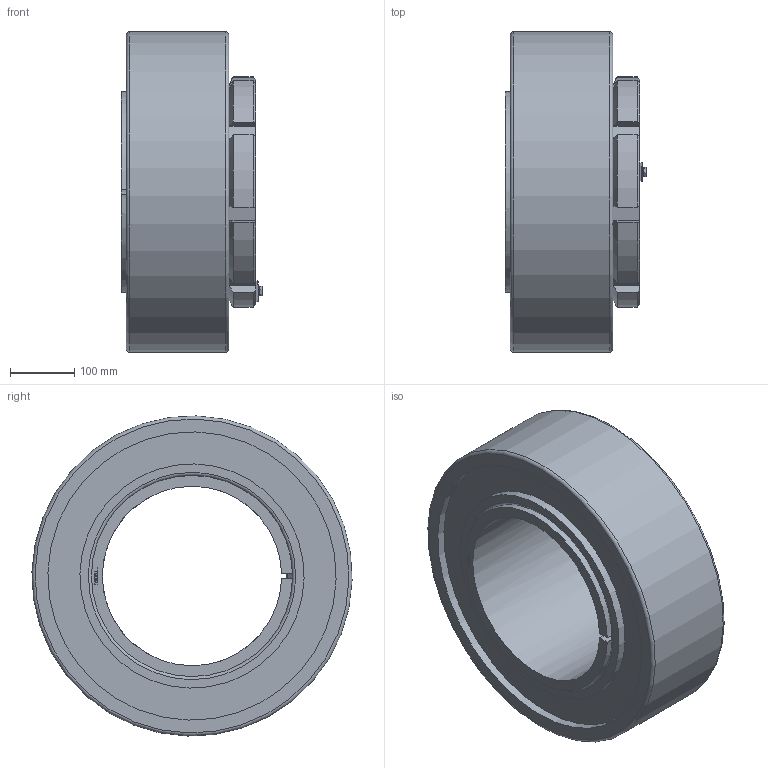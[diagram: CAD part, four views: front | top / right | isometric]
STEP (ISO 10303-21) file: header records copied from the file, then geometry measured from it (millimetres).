
FILE_DESCRIPTION( ( 'STEP AP203' ), ' ' );
FILE_NAME( 'p:/temp/worker_323/4316_4604/app_90_02016102820120284005985192d056f_000000_00_00_000000/format_0/BGL H 3160 TL+23160K.stp', '2016-10-28T18:12:05', ( '' ), ( '' ), ' ', 'PARTsolutions', ' ' );
FILE_SCHEMA( ( 'CONFIG_CONTROL_DESIGN' ) );
Length unit declared in the file: millimetre
Products named in the file (6): BGL H 3160 TL+23160K; _BGLH3160TLB; _BGL HM 3060; _BGLH3160TL+H-23160K; _BGL MS 3060part; _BGL MS 3060HHS
Assembly tree (5 placements, depth 2):
  BGL H 3160 TL+23160K
    _BGLH3160TLB
    _BGL HM 3060
    _BGLH3160TL+H-23160K
    _BGL MS 3060part
    _BGL MS 3060HHS
Bounding box: 221.05 x 499.83 x 499.83 mm (x, y, z)
Volume: 21509348.3 mm3; surface area: 1270692.5 mm2
Topology: 5 solids, 5 shells, 351 faces, 899 edges, 589 vertices
Faces by surface type: plane 230, cylinder 79, cone 38, torus 4
Full cylindrical faces by diameter (mm): 8 x9, 9 x1, 14.8 x1, 296 x1, 350 x2, 450 x2, 500 x1
Entity records: 10762 total; most frequent: CARTESIAN_POINT 2104, DIRECTION 1729, ORIENTED_EDGE 1726, EDGE_CURVE 863, VERTEX_POINT 586, AXIS2_PLACEMENT_3D 577, LINE 575, VECTOR 575
